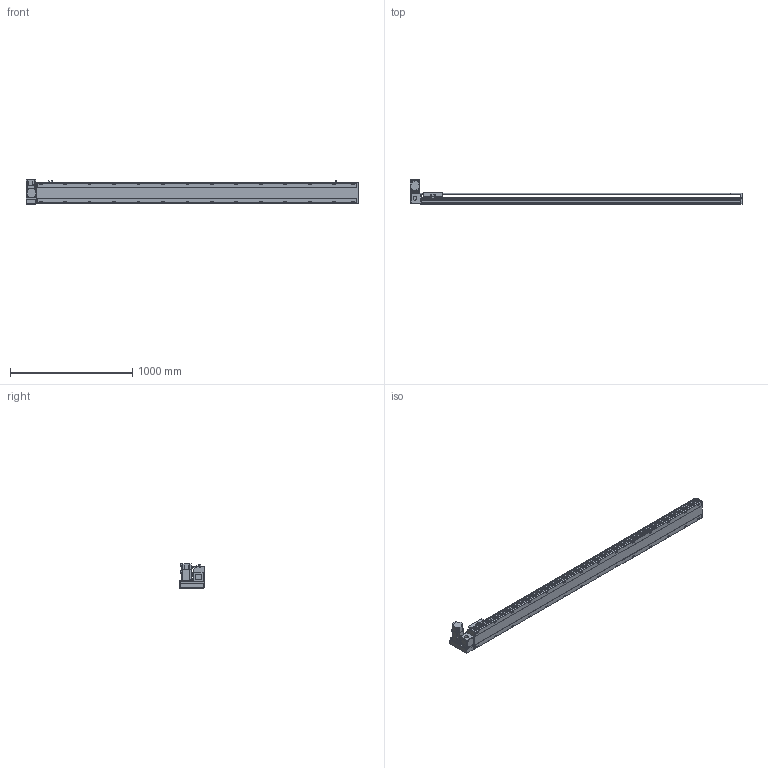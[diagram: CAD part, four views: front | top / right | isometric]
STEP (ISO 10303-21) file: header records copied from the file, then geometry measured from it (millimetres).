
FILE_DESCRIPTION( ( 'STEP AP214' ), '1' );
FILE_NAME( 'x:/temp/worker_4/temp/exporttempdir_2248_415_n7Npp/format_0/PBS170-P40-S2350-LU-T75-C1-N(0).stp', '2022-06-07T08:17:12', ( 'License CC BY-ND 4.0' ), ( 'CADENAS' ), ' ', 'PARTsolutions', ' ' );
FILE_SCHEMA( ( 'AUTOMOTIVE_DESIGN { 1 0 10303 214 1 1 1 1 }' ) );
Length unit declared in the file: millimetre
Products named in the file (7): PBS170-P40-S2350-LU-T75-C1-N(0); _PBS170-S2350()_body; _PBS170T-LU_motors; _T75-p1; _PBS170_sliser; _PBS170_plant; _PBS170_sensor
Assembly tree (8 placements, depth 2):
  PBS170-P40-S2350-LU-T75-C1-N(0)
    _PBS170-S2350()_body
    _PBS170T-LU_motors
    _T75-p1
    _PBS170_sliser
    _PBS170_plant
    _PBS170_sensor  x3
Bounding box: 2713 x 206 x 197.3 mm (x, y, z)
Volume: 20610159.3 mm3; surface area: 2600493.6 mm2
Topology: 8 solids, 8 shells, 1178 faces, 3115 edges, 2030 vertices
Faces by surface type: plane 723, cylinder 387, cone 58, sphere 8, torus 2
Full cylindrical faces by diameter (mm): 3.242 x4, 4 x2, 4.4 x4, 4.5 x6, 4.917 x4, 6 x9, 6.647 x36, 7 x2, 7.5 x4, 8 x8, 8.5 x28, 10 x4, 10.5 x28, 11 x2, 30 x2, 40 x1, 70 x1
Entity records: 43592 total; most frequent: CARTESIAN_POINT 7229, DIRECTION 5720, ORIENTED_EDGE 5388, EDGE_CURVE 2694, AXIS2_PLACEMENT_3D 2017, VERTEX_POINT 1874, LINE 1686, VECTOR 1686
